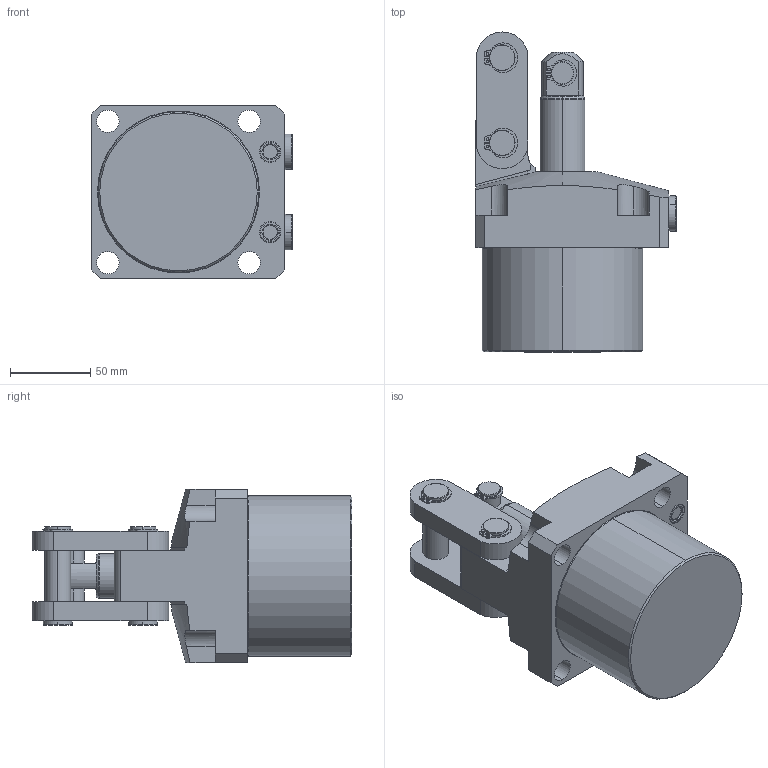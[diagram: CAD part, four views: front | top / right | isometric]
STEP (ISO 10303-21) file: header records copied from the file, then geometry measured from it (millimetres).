
FILE_DESCRIPTION(/* description */ (''),/* implementation_level */ '2;1');
FILE_NAME(/* name */ 'TPC25-F.stp',/* time_stamp */ '2025-01-05T10:26:02+08:00',/* author */ (''),/* organization */ (''),/* preprocessor_version */ 'ST-DEVELOPER v16.7',/* originating_system */ 'SIEMENS PLM Software NX 12.0',/* authorisation */ '');
FILE_SCHEMA (('AUTOMOTIVE_DESIGN { 1 0 10303 214 3 1 1 1 }'));
Length unit declared in the file: millimetre
Products named in the file (5): TPC25-F-01; TPC25-F-02; TPC25-F-03; TPC25-F-04; TPC25-F_stp
Assembly tree (5 placements, depth 2):
  TPC25-F_stp
    TPC25-F-04  x2
    TPC25-F-03
    TPC25-F-02
    TPC25-F-01
Bounding box: 124.8 x 199 x 108 mm (x, y, z)
Volume: 1130209.4 mm3; surface area: 108579.2 mm2
Topology: 5 solids, 7 shells, 287 faces, 680 edges, 432 vertices
Faces by surface type: cylinder 118, plane 114, torus 34, cone 21
Entity records: 8036 total; most frequent: CARTESIAN_POINT 1532, DIRECTION 1430, ORIENTED_EDGE 1268, EDGE_CURVE 634, AXIS2_PLACEMENT_3D 568, VERTEX_POINT 404, EDGE_LOOP 308, CIRCLE 297
